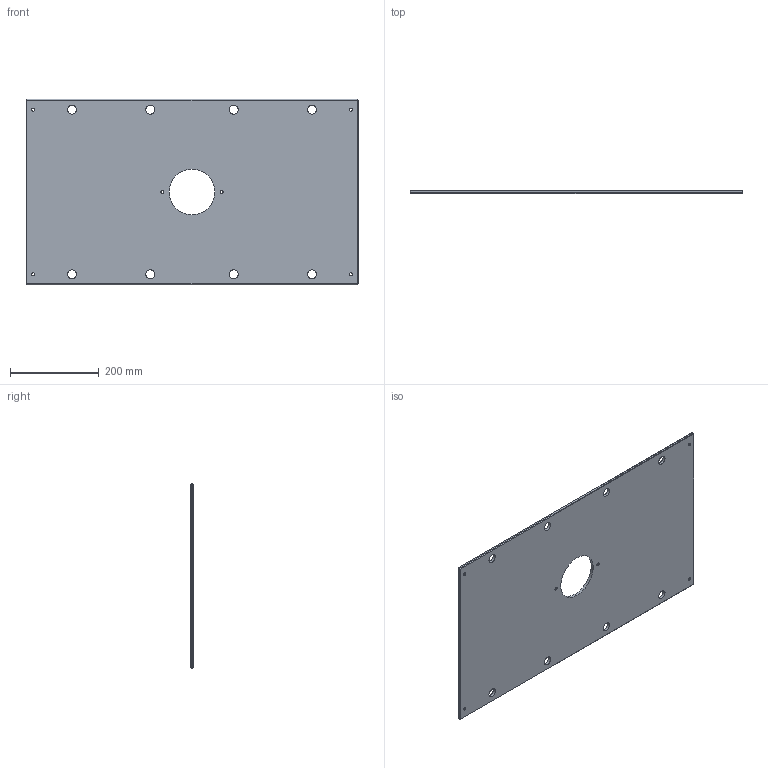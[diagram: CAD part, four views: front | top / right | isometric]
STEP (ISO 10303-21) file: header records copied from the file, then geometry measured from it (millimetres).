
FILE_DESCRIPTION (( 'STEP AP214' ), '1' );
FILE_NAME ('ME-0619-CH-1729.STEP', '2020-02-11T17:29:23', ( '' ), ( '' ), 'SwSTEP 2.0', 'SolidWorks 2018', '' );
FILE_SCHEMA (( 'AUTOMOTIVE_DESIGN' ));
Length unit declared in the file: inch
Products named in the file (1): ME-0619-CH-1729
Bounding box: 746.12 x 6.35 x 415.93 mm (x, y, z)
Volume: 1895316.8 mm3; surface area: 615729.8 mm2
Topology: 1 solids, 1 shells, 68 faces, 162 edges, 96 vertices
Faces by surface type: cylinder 30, plane 26, cone 12
Entity records: 2050 total; most frequent: DIRECTION 372, CARTESIAN_POINT 327, ORIENTED_EDGE 324, EDGE_CURVE 162, AXIS2_PLACEMENT_3D 141, EDGE_LOOP 98, VERTEX_POINT 96, VECTOR 90
